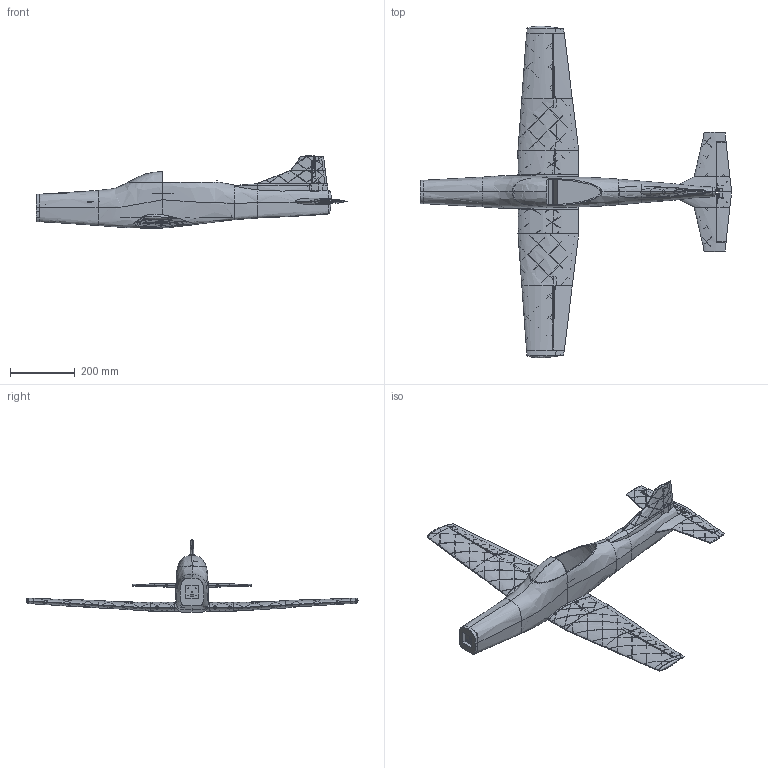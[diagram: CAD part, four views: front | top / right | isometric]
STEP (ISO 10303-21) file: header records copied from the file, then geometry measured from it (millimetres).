
FILE_DESCRIPTION(/* description */ (''),/* implementation_level */ '2;1');
FILE_NAME(/* name */ '9d40fb18-7893-4a20-ae02-3e691d04c9c4.stp',/* time_stamp */ '2026-11-19T21:41:49Z',/* author */ (''),/* organization */ (''),/* preprocessor_version */ 'ST-DEVELOPER v20.2',/* originating_system */ 'Autodesk Translation Framework v15.17.0.0',/* authorisation */ '');
FILE_SCHEMA (('AUTOMOTIVE_DESIGN { 1 0 10303 214 3 1 1 }'));
Products named in the file (1): PC7 MkII last v1
Bounding box: 966 x 1029.22 x 225.04 mm (x, y, z)
Volume: 4618606.2 mm3; surface area: 1563197.5 mm2
Topology: 22 solids, 75 shells, 2718 faces, 7659 edges, 5099 vertices
Faces by surface type: plane 1687, bspline 817, cylinder 210, cone 4
Full cylindrical faces by diameter (mm): 2.2 x69, 2.3 x10, 3.145 x2, 3.191 x2, 3.389 x2, 3.719 x2, 4 x5, 4.468 x3, 4.878 x4, 4.935 x4, 5 x1, 5.024 x8, 5.033 x6, 5.111 x8, 5.255 x7, 5.352 x4, 5.379 x3, 5.393 x4, 5.485 x3
Entity records: 1013747 total; most frequent: CARTESIAN_POINT 952545, ORIENTED_EDGE 15378, DIRECTION 8051, EDGE_CURVE 7642, VERTEX_POINT 5131, B_SPLINE_CURVE_WITH_KNOTS 4055, EDGE_LOOP 3100, LINE 2915
